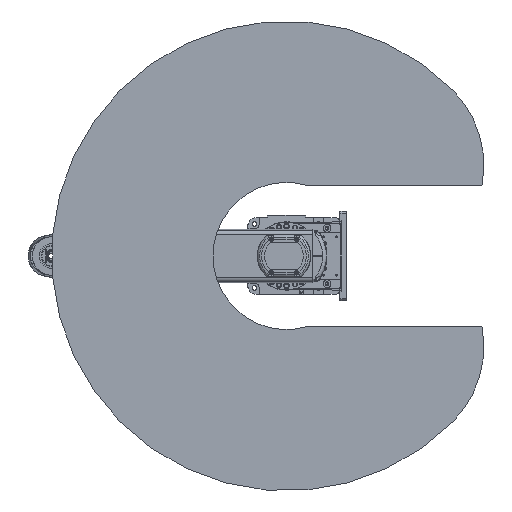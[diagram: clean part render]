
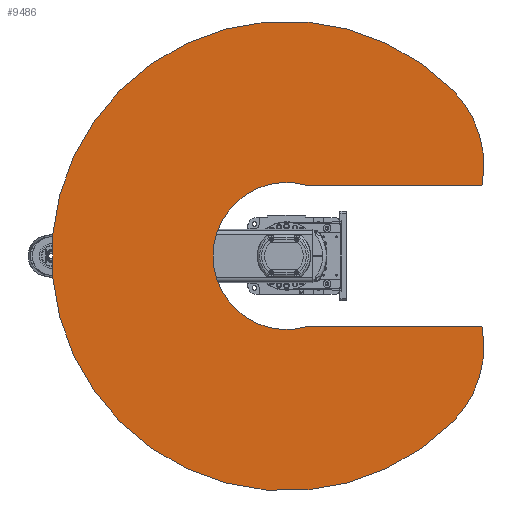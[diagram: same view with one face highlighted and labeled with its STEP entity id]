
A CAD part, front view. The second image highlights one B-rep face of the part: STEP entity #9486.
In plain terms, the highlighted planar face has unit normal (0, -1, 0).
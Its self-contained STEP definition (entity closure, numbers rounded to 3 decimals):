
#9486 = ADVANCED_FACE( '', ( #20283 ), #20284, .F. );
#20283 = FACE_OUTER_BOUND( '', #31900, .T. );
#20284 = PLANE( '', #31901 );
#31900 = EDGE_LOOP( '', ( #57213, #57214, #57215, #57216, #57217, #57218 ) );
#31901 = AXIS2_PLACEMENT_3D( '', #57219, #57220, #57221 );
#57213 = ORIENTED_EDGE( '', *, *, #60970, .T. );
#57214 = ORIENTED_EDGE( '', *, *, #65473, .F. );
#57215 = ORIENTED_EDGE( '', *, *, #59087, .F. );
#57216 = ORIENTED_EDGE( '', *, *, #65093, .F. );
#57217 = ORIENTED_EDGE( '', *, *, #65373, .T. );
#57218 = ORIENTED_EDGE( '', *, *, #61709, .T. );
#57219 = CARTESIAN_POINT( '', ( 106.066, 0., 106.066 ) );
#57220 = DIRECTION( '', ( 0., 1., 0. ) );
#57221 = DIRECTION( '', ( 0., 0., 1. ) );
#59087 = EDGE_CURVE( '', #69636, #69637, #69638, .T. );
#60970 = EDGE_CURVE( '', #72835, #72833, #72836, .T. );
#61709 = EDGE_CURVE( '', #74047, #72835, #74048, .T. );
#65093 = EDGE_CURVE( '', #79082, #69636, #79085, .T. );
#65373 = EDGE_CURVE( '', #79082, #74047, #79456, .T. );
#65473 = EDGE_CURVE( '', #69637, #72833, #79582, .T. );
#69636 = VERTEX_POINT( '', #84954 );
#69637 = VERTEX_POINT( '', #84955 );
#69638 = CIRCLE( '', #84956, 550. );
#72833 = VERTEX_POINT( '', #90201 );
#72835 = VERTEX_POINT( '', #90204 );
#72836 = LINE( '', #90205, #90206 );
#74047 = VERTEX_POINT( '', #92340 );
#74048 = CIRCLE( '', #92341, 172.13 );
#79082 = VERTEX_POINT( '', #100929 );
#79085 = CIRCLE( '', #100933, 250. );
#79456 = LINE( '', #101669, #101670 );
#79582 = CIRCLE( '', #101915, 250. );
#84954 = CARTESIAN_POINT( '', ( 388.909, 0., 388.909 ) );
#84955 = CARTESIAN_POINT( '', ( -388.909, 0., 388.909 ) );
#84956 = AXIS2_PLACEMENT_3D( '', #108219, #108220, #108221 );
#90201 = CARTESIAN_POINT( '', ( -165., 0., 457.649 ) );
#90204 = CARTESIAN_POINT( '', ( -165., 0., 49.028 ) );
#90205 = CARTESIAN_POINT( '', ( -165., 0., 0. ) );
#90206 = VECTOR( '', #110704, 1000. );
#92340 = CARTESIAN_POINT( '', ( 165., 0., 49.028 ) );
#92341 = AXIS2_PLACEMENT_3D( '', #111624, #111625, #111626 );
#100929 = CARTESIAN_POINT( '', ( 165., 0., 457.649 ) );
#100933 = AXIS2_PLACEMENT_3D( '', #115617, #115618, #115619 );
#101669 = CARTESIAN_POINT( '', ( 165., 0., 500. ) );
#101670 = VECTOR( '', #115899, 1000. );
#101915 = AXIS2_PLACEMENT_3D( '', #115990, #115991, #115992 );
#108219 = CARTESIAN_POINT( '', ( 0., 0., 0. ) );
#108220 = DIRECTION( '', ( 0., 1., 0. ) );
#108221 = DIRECTION( '', ( 1., 0., 0. ) );
#110704 = DIRECTION( '', ( 0., 0., 1. ) );
#111624 = CARTESIAN_POINT( '', ( 0., 0., 0. ) );
#111625 = DIRECTION( '', ( 0., 1., 0. ) );
#111626 = DIRECTION( '', ( 1., 0., 0. ) );
#115617 = CARTESIAN_POINT( '', ( 212.132, 0., 212.132 ) );
#115618 = DIRECTION( '', ( 0., 1., 0. ) );
#115619 = DIRECTION( '', ( 1., 0., 0. ) );
#115899 = DIRECTION( '', ( 0., 0., -1. ) );
#115990 = CARTESIAN_POINT( '', ( -212.132, 0., 212.132 ) );
#115991 = DIRECTION( '', ( 0., 1., 0. ) );
#115992 = DIRECTION( '', ( 1., 0., 0. ) );
